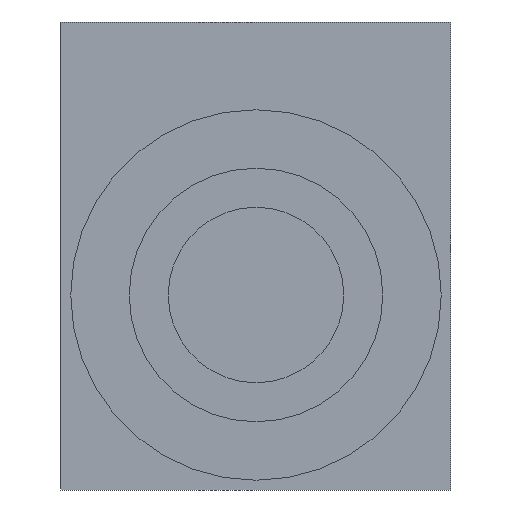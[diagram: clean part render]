
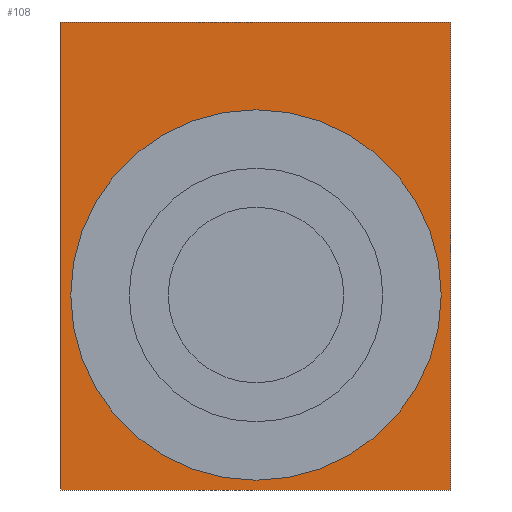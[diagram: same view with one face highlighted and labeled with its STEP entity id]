
A CAD part, front view. The second image highlights one B-rep face of the part: STEP entity #108.
In plain terms, the highlighted planar face has unit normal (0, -1, 0).
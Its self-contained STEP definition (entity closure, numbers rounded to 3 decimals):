
#108 = ADVANCED_FACE( '', ( #184, #185 ), #186, .T. );
#184 = FACE_BOUND( '', #263, .T. );
#185 = FACE_OUTER_BOUND( '', #264, .T. );
#186 = PLANE( '', #265 );
#263 = EDGE_LOOP( '', ( #515, #516 ) );
#264 = EDGE_LOOP( '', ( #517, #518, #519, #520 ) );
#265 = AXIS2_PLACEMENT_3D( '', #521, #522, #523 );
#515 = ORIENTED_EDGE( '', *, *, #543, .T. );
#516 = ORIENTED_EDGE( '', *, *, #609, .T. );
#517 = ORIENTED_EDGE( '', *, *, #619, .T. );
#518 = ORIENTED_EDGE( '', *, *, #613, .F. );
#519 = ORIENTED_EDGE( '', *, *, #620, .F. );
#520 = ORIENTED_EDGE( '', *, *, #581, .T. );
#521 = CARTESIAN_POINT( '', ( 10., 13., 14. ) );
#522 = DIRECTION( '', ( 0., -1., 0. ) );
#523 = DIRECTION( '', ( 0., 0., 1. ) );
#543 = EDGE_CURVE( '', #622, #626, #628, .T. );
#581 = EDGE_CURVE( '', #696, #694, #697, .T. );
#609 = EDGE_CURVE( '', #626, #622, #738, .T. );
#613 = EDGE_CURVE( '', #744, #739, #746, .T. );
#619 = EDGE_CURVE( '', #694, #739, #754, .T. );
#620 = EDGE_CURVE( '', #696, #744, #755, .T. );
#622 = VERTEX_POINT( '', #757 );
#626 = VERTEX_POINT( '', #762 );
#628 = CIRCLE( '', #765, 9.5 );
#694 = VERTEX_POINT( '', #863 );
#696 = VERTEX_POINT( '', #866 );
#697 = LINE( '', #867, #868 );
#738 = CIRCLE( '', #931, 9.5 );
#739 = VERTEX_POINT( '', #932 );
#744 = VERTEX_POINT( '', #939 );
#746 = LINE( '', #942, #943 );
#754 = LINE( '', #956, #957 );
#755 = LINE( '', #958, #959 );
#757 = CARTESIAN_POINT( '', ( 9.5, 13., 0. ) );
#762 = CARTESIAN_POINT( '', ( -9.5, 13., 0. ) );
#765 = AXIS2_PLACEMENT_3D( '', #965, #966, #967 );
#863 = CARTESIAN_POINT( '', ( -10., 13., 14. ) );
#866 = CARTESIAN_POINT( '', ( 10., 13., 14. ) );
#867 = CARTESIAN_POINT( '', ( 10., 13., 14. ) );
#868 = VECTOR( '', #1013, 1. );
#931 = AXIS2_PLACEMENT_3D( '', #1051, #1052, #1053 );
#932 = CARTESIAN_POINT( '', ( -10., 13., -10. ) );
#939 = CARTESIAN_POINT( '', ( 10., 13., -10. ) );
#942 = CARTESIAN_POINT( '', ( 10., 13., -10. ) );
#943 = VECTOR( '', #1057, 1. );
#956 = CARTESIAN_POINT( '', ( -10., 13., 14. ) );
#957 = VECTOR( '', #1063, 1. );
#958 = CARTESIAN_POINT( '', ( 10., 13., 14. ) );
#959 = VECTOR( '', #1064, 1. );
#965 = CARTESIAN_POINT( '', ( 0., 13., 0. ) );
#966 = DIRECTION( '', ( 0., 1., 0. ) );
#967 = DIRECTION( '', ( 1., 0., 0. ) );
#1013 = DIRECTION( '', ( -1., 0., 0. ) );
#1051 = CARTESIAN_POINT( '', ( 0., 13., 0. ) );
#1052 = DIRECTION( '', ( 0., 1., 0. ) );
#1053 = DIRECTION( '', ( 1., 0., 0. ) );
#1057 = DIRECTION( '', ( -1., 0., 0. ) );
#1063 = DIRECTION( '', ( 0., 0., -1. ) );
#1064 = DIRECTION( '', ( 0., 0., -1. ) );
